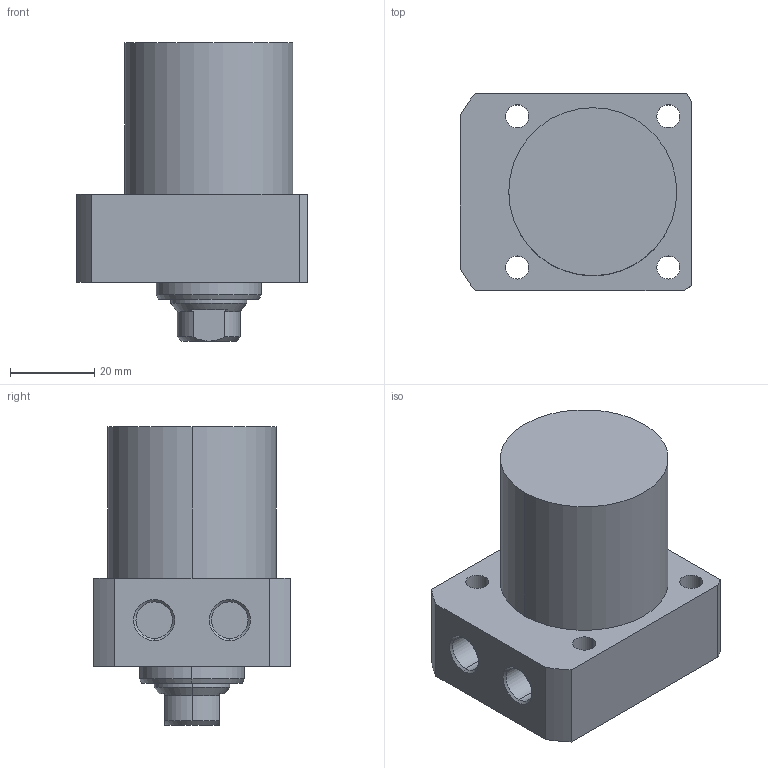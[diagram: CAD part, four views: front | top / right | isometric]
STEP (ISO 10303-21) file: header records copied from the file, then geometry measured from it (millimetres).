
FILE_DESCRIPTION (( 'STEP AP203' ), '1' );
FILE_NAME ('CLL-R040-CA-025.STEP', '2017-05-10T11:48:11', ( '' ), ( '' ), 'SwSTEP 2.0', 'SolidWorks 2015', '' );
FILE_SCHEMA (( 'CONFIG_CONTROL_DESIGN' ));
Length unit declared in the file: millimetre
Products named in the file (1): CLL-R040-CA-025
Bounding box: 55 x 47 x 71 mm (x, y, z)
Volume: 98303.3 mm3; surface area: 16987.9 mm2
Topology: 1 solids, 1 shells, 63 faces, 147 edges, 92 vertices
Faces by surface type: cylinder 29, plane 19, cone 15
Entity records: 1913 total; most frequent: DIRECTION 338, CARTESIAN_POINT 337, ORIENTED_EDGE 290, EDGE_CURVE 145, AXIS2_PLACEMENT_3D 137, VERTEX_POINT 92, EDGE_LOOP 79, CIRCLE 73
